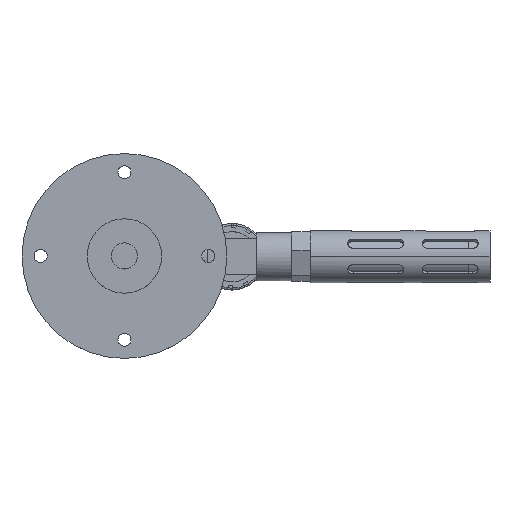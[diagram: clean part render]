
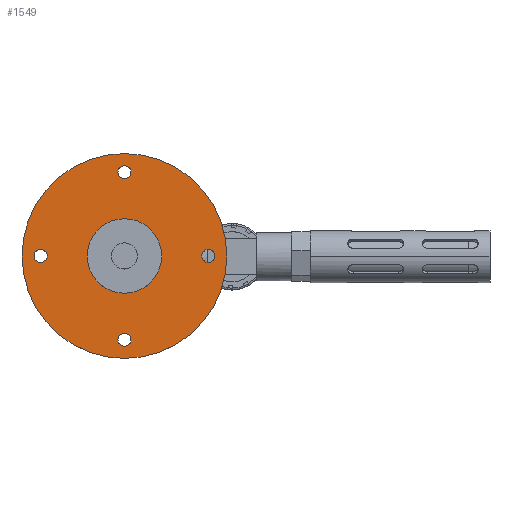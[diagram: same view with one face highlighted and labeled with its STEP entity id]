
A CAD part, top view. The second image highlights one B-rep face of the part: STEP entity #1549.
In plain terms, the highlighted planar face has unit normal (0, 0, 1).
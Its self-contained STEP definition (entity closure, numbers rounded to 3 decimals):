
#31 = EDGE_CURVE ( 'NONE', #7280, #8814, #1566, .T. ) ;
#95 = DIRECTION ( 'NONE',  ( 0., 0., -1. ) ) ;
#137 = DIRECTION ( 'NONE',  ( 0., 0., -1. ) ) ;
#187 = FACE_BOUND ( 'NONE', #6264, .T. ) ;
#322 = CARTESIAN_POINT ( 'NONE',  ( -45., 0., 160. ) ) ;
#330 = ORIENTED_EDGE ( 'NONE', *, *, #4209, .T. ) ;
#542 = VERTEX_POINT ( 'NONE', #9991 ) ;
#832 = CARTESIAN_POINT ( 'NONE',  ( -20., 0., 160. ) ) ;
#846 = CIRCLE ( 'NONE', #10291, 3.5 ) ;
#880 = EDGE_CURVE ( 'NONE', #8362, #6247, #4641, .T. ) ;
#930 = ORIENTED_EDGE ( 'NONE', *, *, #10856, .T. ) ;
#1146 = CARTESIAN_POINT ( 'NONE',  ( -55., 0., 160. ) ) ;
#1197 = CARTESIAN_POINT ( 'NONE',  ( 0., 0., 160. ) ) ;
#1346 = ORIENTED_EDGE ( 'NONE', *, *, #880, .T. ) ;
#1448 = DIRECTION ( 'NONE',  ( -1., 0., 0. ) ) ;
#1549 = ADVANCED_FACE ( 'NONE', ( #3558, #6545, #9167, #3213, #187, #6200 ), #2731, .T. ) ;
#1566 = CIRCLE ( 'NONE', #8743, 20. ) ;
#1583 = AXIS2_PLACEMENT_3D ( 'NONE', #2101, #9956, #3266 ) ;
#1585 = EDGE_CURVE ( 'NONE', #3584, #1815, #2846, .T. ) ;
#1815 = VERTEX_POINT ( 'NONE', #1146 ) ;
#2101 = CARTESIAN_POINT ( 'NONE',  ( 0., -45., 160. ) ) ;
#2145 = ORIENTED_EDGE ( 'NONE', *, *, #1585, .T. ) ;
#2257 = CARTESIAN_POINT ( 'NONE',  ( 41.5, 0., 160. ) ) ;
#2289 = DIRECTION ( 'NONE',  ( 0., 0., -1. ) ) ;
#2344 = ORIENTED_EDGE ( 'NONE', *, *, #31, .F. ) ;
#2349 = DIRECTION ( 'NONE',  ( 1., 0., 0. ) ) ;
#2396 = CARTESIAN_POINT ( 'NONE',  ( 45., 0., 160. ) ) ;
#2731 = PLANE ( 'NONE',  #7822 ) ;
#2809 = EDGE_CURVE ( 'NONE', #10891, #4150, #10524, .T. ) ;
#2846 = CIRCLE ( 'NONE', #11590, 55. ) ;
#3213 = FACE_BOUND ( 'NONE', #11820, .T. ) ;
#3266 = DIRECTION ( 'NONE',  ( 0., 1., 0. ) ) ;
#3294 = CIRCLE ( 'NONE', #12200, 3.5 ) ;
#3513 = CARTESIAN_POINT ( 'NONE',  ( 0., 0., 160. ) ) ;
#3531 = DIRECTION ( 'NONE',  ( -1., 0., 0. ) ) ;
#3558 = FACE_BOUND ( 'NONE', #10063, .T. ) ;
#3584 = VERTEX_POINT ( 'NONE', #7777 ) ;
#3870 = DIRECTION ( 'NONE',  ( 1., 0., 0. ) ) ;
#3967 = CARTESIAN_POINT ( 'NONE',  ( 0., 0., 160. ) ) ;
#4150 = VERTEX_POINT ( 'NONE', #12091 ) ;
#4209 = EDGE_CURVE ( 'NONE', #6247, #8362, #5276, .T. ) ;
#4369 = EDGE_CURVE ( 'NONE', #5559, #542, #846, .T. ) ;
#4534 = CARTESIAN_POINT ( 'NONE',  ( 45., 0., 160. ) ) ;
#4641 = CIRCLE ( 'NONE', #1583, 3.5 ) ;
#4649 = DIRECTION ( 'NONE',  ( 1., 0., 0. ) ) ;
#4900 = CARTESIAN_POINT ( 'NONE',  ( 0., 0., 160. ) ) ;
#5089 = DIRECTION ( 'NONE',  ( 1., 0., 0. ) ) ;
#5276 = CIRCLE ( 'NONE', #13570, 3.5 ) ;
#5559 = VERTEX_POINT ( 'NONE', #10905 ) ;
#5665 = DIRECTION ( 'NONE',  ( -1., 0., 0. ) ) ;
#5682 = CARTESIAN_POINT ( 'NONE',  ( 0., -45., 160. ) ) ;
#6130 = DIRECTION ( 'NONE',  ( 0., 0., 1. ) ) ;
#6200 = FACE_OUTER_BOUND ( 'NONE', #7810, .T. ) ;
#6247 = VERTEX_POINT ( 'NONE', #14322 ) ;
#6264 = EDGE_LOOP ( 'NONE', ( #14254, #2344 ) ) ;
#6545 = FACE_BOUND ( 'NONE', #13567, .T. ) ;
#6575 = EDGE_LOOP ( 'NONE', ( #10684, #10082 ) ) ;
#6786 = AXIS2_PLACEMENT_3D ( 'NONE', #1197, #9080, #2349 ) ;
#6790 = DIRECTION ( 'NONE',  ( 0., 1., 0. ) ) ;
#6847 = CARTESIAN_POINT ( 'NONE',  ( 0., 45., 160. ) ) ;
#6887 = CARTESIAN_POINT ( 'NONE',  ( 0., 45., 160. ) ) ;
#7036 = EDGE_CURVE ( 'NONE', #13071, #9412, #8820, .T. ) ;
#7280 = VERTEX_POINT ( 'NONE', #832 ) ;
#7771 = EDGE_CURVE ( 'NONE', #4150, #10891, #11775, .T. ) ;
#7777 = CARTESIAN_POINT ( 'NONE',  ( 55., 0., 160. ) ) ;
#7810 = EDGE_LOOP ( 'NONE', ( #11913, #2145 ) ) ;
#7822 = AXIS2_PLACEMENT_3D ( 'NONE', #4900, #10557, #3870 ) ;
#7969 = DIRECTION ( 'NONE',  ( 0., 1., 0. ) ) ;
#8017 = DIRECTION ( 'NONE',  ( 0., 1., 0. ) ) ;
#8080 = AXIS2_PLACEMENT_3D ( 'NONE', #3513, #11357, #4649 ) ;
#8197 = DIRECTION ( 'NONE',  ( 0., 0., -1. ) ) ;
#8264 = ORIENTED_EDGE ( 'NONE', *, *, #2809, .T. ) ;
#8362 = VERTEX_POINT ( 'NONE', #11289 ) ;
#8428 = AXIS2_PLACEMENT_3D ( 'NONE', #4534, #12368, #5665 ) ;
#8743 = AXIS2_PLACEMENT_3D ( 'NONE', #12830, #6130, #13959 ) ;
#8814 = VERTEX_POINT ( 'NONE', #13852 ) ;
#8820 = CIRCLE ( 'NONE', #12632, 3.5 ) ;
#9017 = CARTESIAN_POINT ( 'NONE',  ( -45., 0., 160. ) ) ;
#9080 = DIRECTION ( 'NONE',  ( 0., 0., 1. ) ) ;
#9167 = FACE_BOUND ( 'NONE', #6575, .T. ) ;
#9249 = CIRCLE ( 'NONE', #8428, 3.5 ) ;
#9381 = CIRCLE ( 'NONE', #6786, 20. ) ;
#9412 = VERTEX_POINT ( 'NONE', #14542 ) ;
#9956 = DIRECTION ( 'NONE',  ( 0., 0., -1. ) ) ;
#9991 = CARTESIAN_POINT ( 'NONE',  ( -48.5, 0., 160. ) ) ;
#10063 = EDGE_LOOP ( 'NONE', ( #11042, #8264 ) ) ;
#10082 = ORIENTED_EDGE ( 'NONE', *, *, #4369, .T. ) ;
#10135 = DIRECTION ( 'NONE',  ( -1., 0., 0. ) ) ;
#10233 = DIRECTION ( 'NONE',  ( 0., 0., -1. ) ) ;
#10291 = AXIS2_PLACEMENT_3D ( 'NONE', #322, #8197, #1448 ) ;
#10443 = CIRCLE ( 'NONE', #8080, 55. ) ;
#10524 = CIRCLE ( 'NONE', #11982, 3.5 ) ;
#10557 = DIRECTION ( 'NONE',  ( 0., 0., 1. ) ) ;
#10684 = ORIENTED_EDGE ( 'NONE', *, *, #10883, .T. ) ;
#10856 = EDGE_CURVE ( 'NONE', #9412, #13071, #9249, .T. ) ;
#10883 = EDGE_CURVE ( 'NONE', #542, #5559, #3294, .T. ) ;
#10891 = VERTEX_POINT ( 'NONE', #11225 ) ;
#10905 = CARTESIAN_POINT ( 'NONE',  ( -41.5, 0., 160. ) ) ;
#11042 = ORIENTED_EDGE ( 'NONE', *, *, #7771, .T. ) ;
#11225 = CARTESIAN_POINT ( 'NONE',  ( 3.5, 45., 160. ) ) ;
#11289 = CARTESIAN_POINT ( 'NONE',  ( -3.5, -45., 160. ) ) ;
#11357 = DIRECTION ( 'NONE',  ( 0., 0., 1. ) ) ;
#11590 = AXIS2_PLACEMENT_3D ( 'NONE', #3967, #11810, #5089 ) ;
#11775 = CIRCLE ( 'NONE', #13264, 3.5 ) ;
#11810 = DIRECTION ( 'NONE',  ( 0., 0., 1. ) ) ;
#11820 = EDGE_LOOP ( 'NONE', ( #13172, #930 ) ) ;
#11913 = ORIENTED_EDGE ( 'NONE', *, *, #13999, .T. ) ;
#11982 = AXIS2_PLACEMENT_3D ( 'NONE', #6847, #95, #7969 ) ;
#12091 = CARTESIAN_POINT ( 'NONE',  ( -3.5, 45., 160. ) ) ;
#12200 = AXIS2_PLACEMENT_3D ( 'NONE', #9017, #2289, #10135 ) ;
#12368 = DIRECTION ( 'NONE',  ( 0., 0., -1. ) ) ;
#12632 = AXIS2_PLACEMENT_3D ( 'NONE', #2396, #10233, #3531 ) ;
#12830 = CARTESIAN_POINT ( 'NONE',  ( 0., 0., 160. ) ) ;
#13071 = VERTEX_POINT ( 'NONE', #2257 ) ;
#13172 = ORIENTED_EDGE ( 'NONE', *, *, #7036, .T. ) ;
#13264 = AXIS2_PLACEMENT_3D ( 'NONE', #6887, #137, #8017 ) ;
#13483 = DIRECTION ( 'NONE',  ( 0., 0., -1. ) ) ;
#13567 = EDGE_LOOP ( 'NONE', ( #1346, #330 ) ) ;
#13570 = AXIS2_PLACEMENT_3D ( 'NONE', #5682, #13483, #6790 ) ;
#13852 = CARTESIAN_POINT ( 'NONE',  ( 20., 0., 160. ) ) ;
#13959 = DIRECTION ( 'NONE',  ( 1., 0., 0. ) ) ;
#13999 = EDGE_CURVE ( 'NONE', #1815, #3584, #10443, .T. ) ;
#14254 = ORIENTED_EDGE ( 'NONE', *, *, #14528, .F. ) ;
#14322 = CARTESIAN_POINT ( 'NONE',  ( 3.5, -45., 160. ) ) ;
#14528 = EDGE_CURVE ( 'NONE', #8814, #7280, #9381, .T. ) ;
#14542 = CARTESIAN_POINT ( 'NONE',  ( 48.5, 0., 160. ) ) ;
